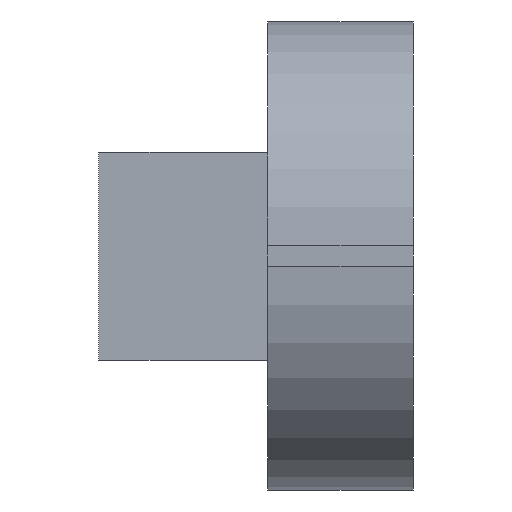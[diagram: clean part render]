
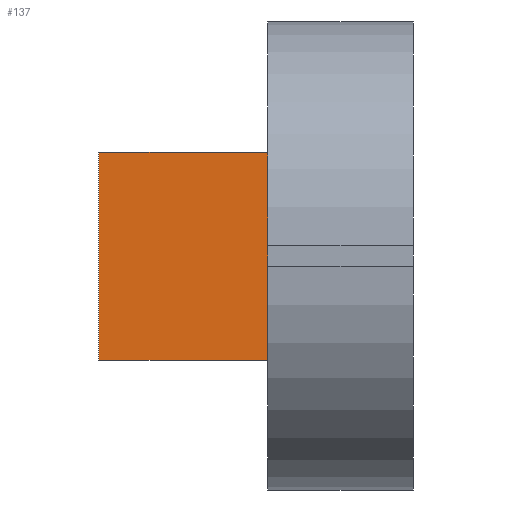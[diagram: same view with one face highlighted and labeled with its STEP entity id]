
A CAD part, front view. The second image highlights one B-rep face of the part: STEP entity #137.
In plain terms, the highlighted planar face has unit normal (0, -1, 0).
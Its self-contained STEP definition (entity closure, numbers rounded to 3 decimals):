
#21 = EDGE_CURVE('',#22,#24,#26,.T.);
#22 = VERTEX_POINT('',#23);
#23 = CARTESIAN_POINT('',(38.55,0.75,-0.5));
#24 = VERTEX_POINT('',#25);
#25 = CARTESIAN_POINT('',(38.55,0.75,3.5));
#26 = SURFACE_CURVE('',#27,(#31,#43),.PCURVE_S1.);
#27 = LINE('',#28,#29);
#28 = CARTESIAN_POINT('',(38.55,0.75,-0.5));
#29 = VECTOR('',#30,1.);
#30 = DIRECTION('',(0.,0.,1.));
#31 = PCURVE('',#32,#37);
#32 = PLANE('',#33);
#33 = AXIS2_PLACEMENT_3D('',#34,#35,#36);
#34 = CARTESIAN_POINT('',(38.55,0.75,-0.5));
#35 = DIRECTION('',(1.,0.,0.));
#36 = DIRECTION('',(0.,0.,1.));
#37 = DEFINITIONAL_REPRESENTATION('',(#38),#42);
#38 = LINE('',#39,#40);
#39 = CARTESIAN_POINT('',(0.,0.));
#40 = VECTOR('',#41,1.);
#41 = DIRECTION('',(1.,0.));
#42 = ( GEOMETRIC_REPRESENTATION_CONTEXT(2) 
PARAMETRIC_REPRESENTATION_CONTEXT() REPRESENTATION_CONTEXT('2D SPACE',''
  ) );
#43 = PCURVE('',#44,#49);
#44 = PLANE('',#45);
#45 = AXIS2_PLACEMENT_3D('',#46,#47,#48);
#46 = CARTESIAN_POINT('',(38.55,0.75,-0.5));
#47 = DIRECTION('',(0.,1.,0.));
#48 = DIRECTION('',(0.,0.,1.));
#49 = DEFINITIONAL_REPRESENTATION('',(#50),#54);
#50 = LINE('',#51,#52);
#51 = CARTESIAN_POINT('',(0.,0.));
#52 = VECTOR('',#53,1.);
#53 = DIRECTION('',(1.,0.));
#54 = ( GEOMETRIC_REPRESENTATION_CONTEXT(2) 
PARAMETRIC_REPRESENTATION_CONTEXT() REPRESENTATION_CONTEXT('2D SPACE',''
  ) );
#72 = PLANE('',#73);
#73 = AXIS2_PLACEMENT_3D('',#74,#75,#76);
#74 = CARTESIAN_POINT('',(38.55,0.75,-0.5));
#75 = DIRECTION('',(0.,0.,1.));
#76 = DIRECTION('',(1.,0.,0.));
#126 = PLANE('',#127);
#127 = AXIS2_PLACEMENT_3D('',#128,#129,#130);
#128 = CARTESIAN_POINT('',(38.55,0.75,3.5));
#129 = DIRECTION('',(0.,0.,1.));
#130 = DIRECTION('',(1.,0.,0.));
#137 = ADVANCED_FACE('',(#138),#44,.F.);
#138 = FACE_BOUND('',#139,.F.);
#139 = EDGE_LOOP('',(#140,#163,#164,#187));
#140 = ORIENTED_EDGE('',*,*,#141,.F.);
#141 = EDGE_CURVE('',#22,#142,#144,.T.);
#142 = VERTEX_POINT('',#143);
#143 = CARTESIAN_POINT('',(41.8,0.75,-0.5));
#144 = SURFACE_CURVE('',#145,(#149,#156),.PCURVE_S1.);
#145 = LINE('',#146,#147);
#146 = CARTESIAN_POINT('',(38.55,0.75,-0.5));
#147 = VECTOR('',#148,1.);
#148 = DIRECTION('',(1.,0.,0.));
#149 = PCURVE('',#44,#150);
#150 = DEFINITIONAL_REPRESENTATION('',(#151),#155);
#151 = LINE('',#152,#153);
#152 = CARTESIAN_POINT('',(0.,0.));
#153 = VECTOR('',#154,1.);
#154 = DIRECTION('',(0.,1.));
#155 = ( GEOMETRIC_REPRESENTATION_CONTEXT(2) 
PARAMETRIC_REPRESENTATION_CONTEXT() REPRESENTATION_CONTEXT('2D SPACE',''
  ) );
#156 = PCURVE('',#72,#157);
#157 = DEFINITIONAL_REPRESENTATION('',(#158),#162);
#158 = LINE('',#159,#160);
#159 = CARTESIAN_POINT('',(0.,0.));
#160 = VECTOR('',#161,1.);
#161 = DIRECTION('',(1.,0.));
#162 = ( GEOMETRIC_REPRESENTATION_CONTEXT(2) 
PARAMETRIC_REPRESENTATION_CONTEXT() REPRESENTATION_CONTEXT('2D SPACE',''
  ) );
#163 = ORIENTED_EDGE('',*,*,#21,.T.);
#164 = ORIENTED_EDGE('',*,*,#165,.T.);
#165 = EDGE_CURVE('',#24,#166,#168,.T.);
#166 = VERTEX_POINT('',#167);
#167 = CARTESIAN_POINT('',(41.8,0.75,3.5));
#168 = SURFACE_CURVE('',#169,(#173,#180),.PCURVE_S1.);
#169 = LINE('',#170,#171);
#170 = CARTESIAN_POINT('',(38.55,0.75,3.5));
#171 = VECTOR('',#172,1.);
#172 = DIRECTION('',(1.,0.,0.));
#173 = PCURVE('',#44,#174);
#174 = DEFINITIONAL_REPRESENTATION('',(#175),#179);
#175 = LINE('',#176,#177);
#176 = CARTESIAN_POINT('',(4.,0.));
#177 = VECTOR('',#178,1.);
#178 = DIRECTION('',(0.,1.));
#179 = ( GEOMETRIC_REPRESENTATION_CONTEXT(2) 
PARAMETRIC_REPRESENTATION_CONTEXT() REPRESENTATION_CONTEXT('2D SPACE',''
  ) );
#180 = PCURVE('',#126,#181);
#181 = DEFINITIONAL_REPRESENTATION('',(#182),#186);
#182 = LINE('',#183,#184);
#183 = CARTESIAN_POINT('',(0.,0.));
#184 = VECTOR('',#185,1.);
#185 = DIRECTION('',(1.,0.));
#186 = ( GEOMETRIC_REPRESENTATION_CONTEXT(2) 
PARAMETRIC_REPRESENTATION_CONTEXT() REPRESENTATION_CONTEXT('2D SPACE',''
  ) );
#187 = ORIENTED_EDGE('',*,*,#188,.F.);
#188 = EDGE_CURVE('',#142,#166,#189,.T.);
#189 = SURFACE_CURVE('',#190,(#194,#200),.PCURVE_S1.);
#190 = LINE('',#191,#192);
#191 = CARTESIAN_POINT('',(41.8,0.75,-1.75));
#192 = VECTOR('',#193,1.);
#193 = DIRECTION('',(0.,0.,1.));
#194 = PCURVE('',#44,#195);
#195 = DEFINITIONAL_REPRESENTATION('',(#196),#199);
#196 = B_SPLINE_CURVE_WITH_KNOTS('',1,(#197,#198),.UNSPECIFIED.,.F.,.F.,
  (2,2),(1.25,5.25),.PIECEWISE_BEZIER_KNOTS.);
#197 = CARTESIAN_POINT('',(0.,3.25));
#198 = CARTESIAN_POINT('',(4.,3.25));
#199 = ( GEOMETRIC_REPRESENTATION_CONTEXT(2) 
PARAMETRIC_REPRESENTATION_CONTEXT() REPRESENTATION_CONTEXT('2D SPACE',''
  ) );
#200 = PCURVE('',#201,#206);
#201 = PLANE('',#202);
#202 = AXIS2_PLACEMENT_3D('',#203,#204,#205);
#203 = CARTESIAN_POINT('',(41.8,-2.5,-3.));
#204 = DIRECTION('',(1.,0.,0.));
#205 = DIRECTION('',(0.,0.,1.));
#206 = DEFINITIONAL_REPRESENTATION('',(#207),#210);
#207 = B_SPLINE_CURVE_WITH_KNOTS('',1,(#208,#209),.UNSPECIFIED.,.F.,.F.,
  (2,2),(1.25,5.25),.PIECEWISE_BEZIER_KNOTS.);
#208 = CARTESIAN_POINT('',(2.5,-3.25));
#209 = CARTESIAN_POINT('',(6.5,-3.25));
#210 = ( GEOMETRIC_REPRESENTATION_CONTEXT(2) 
PARAMETRIC_REPRESENTATION_CONTEXT() REPRESENTATION_CONTEXT('2D SPACE',''
  ) );
